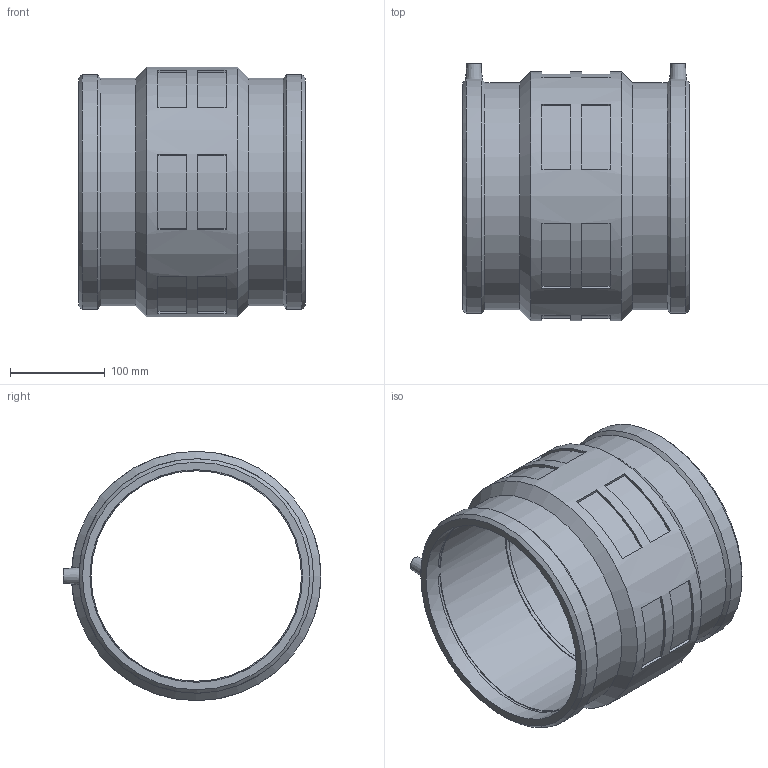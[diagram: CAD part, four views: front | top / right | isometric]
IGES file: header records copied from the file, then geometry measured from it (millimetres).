
Global section: file name: 460104225.ipt; native system: Autodesk Inventor 2015; preprocessor: unknown; author: KIM; date: 20171106.093420; units: millimetre
Bounding box: 240 x 273 x 264 mm (x, y, z)
Volume: 2415827 mm3; surface area: 395733.7 mm2
Topology: 1 solids, 1 shells, 98 faces, 240 edges, 160 vertices
Faces by surface type: plane 60, cylinder 19, cone 12, revolution 7
Full cylindrical faces by diameter (mm): 4 x2, 240.715 x2, 264 x1
